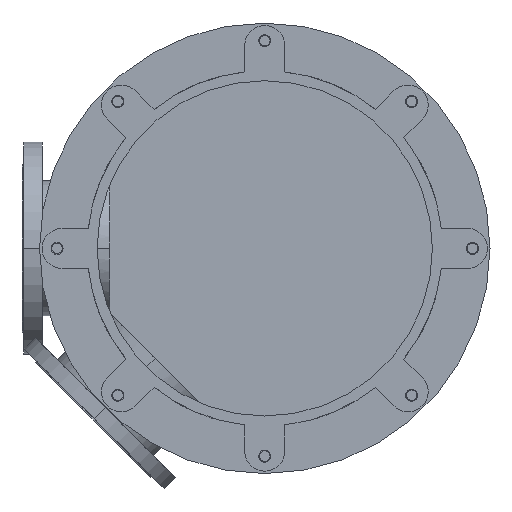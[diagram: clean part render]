
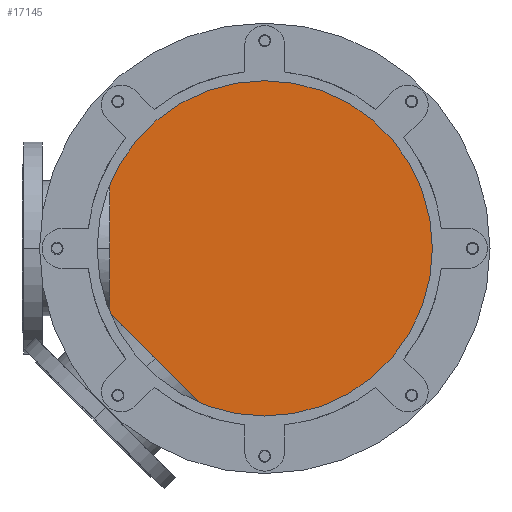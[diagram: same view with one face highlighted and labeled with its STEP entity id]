
A CAD part, front view. The second image highlights one B-rep face of the part: STEP entity #17145.
In plain terms, the highlighted planar face has unit normal (0, -1, 0).
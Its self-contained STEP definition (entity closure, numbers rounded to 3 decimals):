
#5065=CARTESIAN_POINT('',(0.,1204.,0.));
#5066=DIRECTION('',(0.,-1.,0.));
#5067=DIRECTION('',(0.,0.,1.));
#5068=AXIS2_PLACEMENT_3D('',#5065,#5066,#5067);
#5243=CARTESIAN_POINT('',(0.,1204.,0.));
#5244=DIRECTION('',(0.,-1.,0.));
#5245=DIRECTION('',(0.,0.,-1.));
#5246=AXIS2_PLACEMENT_3D('',#5243,#5244,#5245);
#9242=CARTESIAN_POINT('',(0.,1204.,350.));
#9243=CARTESIAN_POINT('',(0.,1204.,-350.));
#9244=VERTEX_POINT('',#9242);
#9245=VERTEX_POINT('',#9243);
#17135=CARTESIAN_POINT('',(0.,1204.,0.));
#17136=DIRECTION('',(0.,1.,0.));
#17137=DIRECTION('',(0.,0.,-1.));
#17138=AXIS2_PLACEMENT_3D('',#17135,#17136,#17137);
#17139=PLANE('',#17138);
#17140=ORIENTED_EDGE('',*,*,#17113,.F.);
#17142=ORIENTED_EDGE('',*,*,#17141,.F.);
#17143=EDGE_LOOP('',(#17140,#17142));
#17144=FACE_OUTER_BOUND('',#17143,.F.);
#17145=ADVANCED_FACE('',(#17144),#17139,.F.);
#5069=CIRCLE('',#5068,350.);
#5247=CIRCLE('',#5246,350.);
#17113=EDGE_CURVE('',#9244,#9245,#5069,.T.);
#17141=EDGE_CURVE('',#9245,#9244,#5247,.T.);
